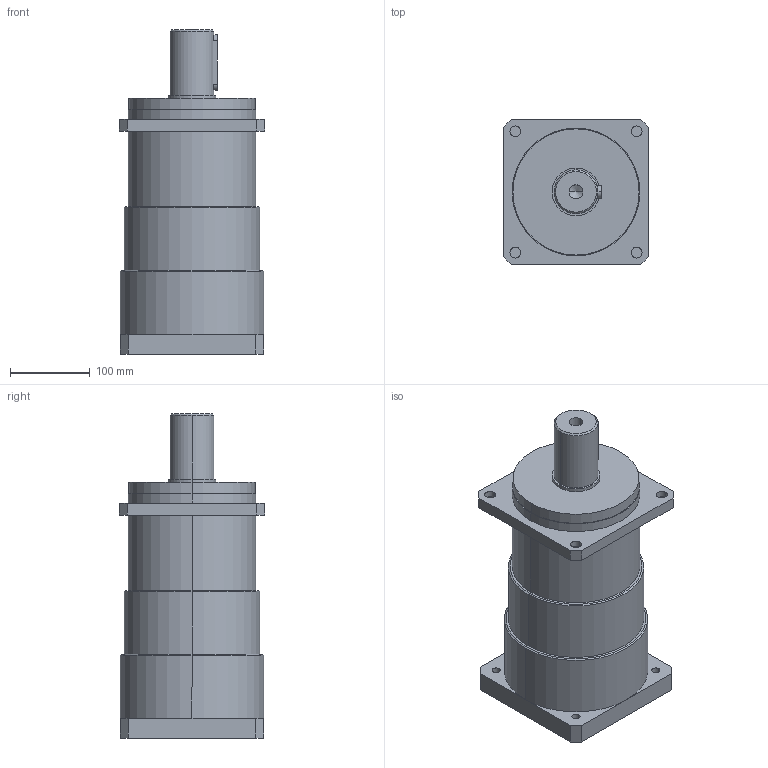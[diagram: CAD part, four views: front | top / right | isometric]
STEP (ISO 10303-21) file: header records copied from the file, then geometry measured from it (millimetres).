
FILE_DESCRIPTION (( 'STEP AP214' ), '1' );
FILE_NAME ('VRS180-L2.STEP', '2019-08-31T07:14:02', ( '微软用户' ), ( '微软中国' ), 'SwSTEP 2.0', 'SolidWorks 2014', '' );
FILE_SCHEMA (( 'AUTOMOTIVE_DESIGN' ));
Length unit declared in the file: millimetre
Products named in the file (2): VRS180-L2
Bounding box: 182 x 182 x 406.5 mm (x, y, z)
Volume: 7502868.1 mm3; surface area: 304660.7 mm2
Topology: 1 solids, 1 shells, 710 faces, 2019 edges, 1342 vertices
Faces by surface type: plane 603, bspline 60, cylinder 39, cone 8
Entity records: 29986 total; most frequent: CARTESIAN_POINT 4943, ORIENTED_EDGE 4034, DIRECTION 3286, EDGE_CURVE 2017, VECTOR 1804, LINE 1804, VERTEX_POINT 1342, EDGE_LOOP 751
